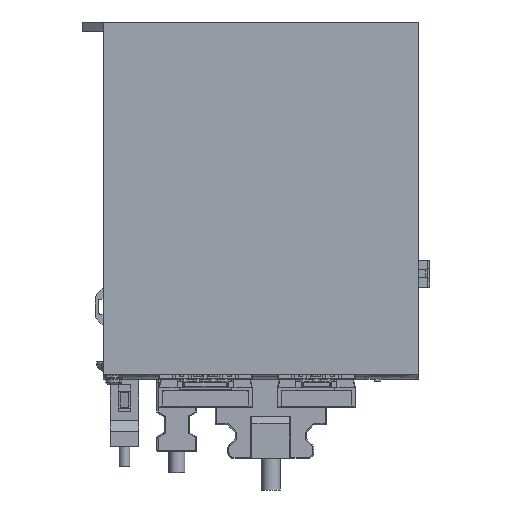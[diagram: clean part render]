
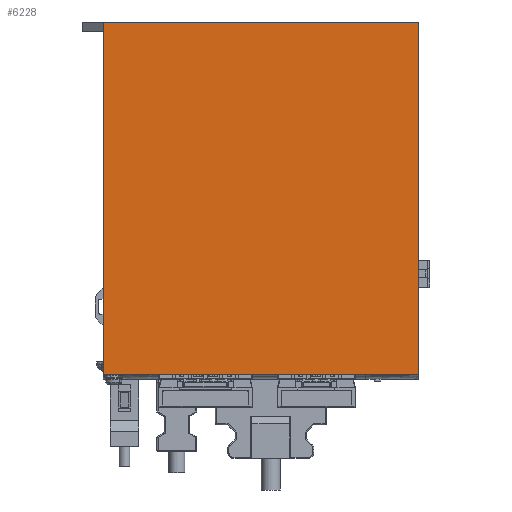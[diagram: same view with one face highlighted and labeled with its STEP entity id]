
A CAD part, front view. The second image highlights one B-rep face of the part: STEP entity #6228.
In plain terms, the highlighted planar face has unit normal (0, -1, 0).
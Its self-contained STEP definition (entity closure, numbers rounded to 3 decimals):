
#1209 = LINE ( 'NONE', #113590, #103268 ) ;
#1686 = VERTEX_POINT ( 'NONE', #150469 ) ;
#1817 = CARTESIAN_POINT ( 'NONE',  ( -150., 0., -79.7 ) ) ;
#2488 = EDGE_CURVE ( 'NONE', #64777, #132599, #124465, .T. ) ;
#3372 = VECTOR ( 'NONE', #80155, 1000. ) ;
#6213 = CARTESIAN_POINT ( 'NONE',  ( -150., 0., 88. ) ) ;
#6228 = ADVANCED_FACE ( 'NONE', ( #94925 ), #118364, .T. ) ;
#6781 = LINE ( 'NONE', #129754, #3372 ) ;
#15095 = VERTEX_POINT ( 'NONE', #65149 ) ;
#17262 = ORIENTED_EDGE ( 'NONE', *, *, #44241, .T. ) ;
#20338 = ORIENTED_EDGE ( 'NONE', *, *, #2488, .F. ) ;
#22660 = ORIENTED_EDGE ( 'NONE', *, *, #28420, .F. ) ;
#22758 = EDGE_CURVE ( 'NONE', #1686, #15095, #97366, .T. ) ;
#23967 = DIRECTION ( 'NONE',  ( 0., 0., -1. ) ) ;
#28420 = EDGE_CURVE ( 'NONE', #132599, #59366, #40136, .T. ) ;
#37687 = CARTESIAN_POINT ( 'NONE',  ( -140., 0., -79.5 ) ) ;
#40136 = LINE ( 'NONE', #109082, #100682 ) ;
#42230 = EDGE_CURVE ( 'NONE', #56891, #59366, #1209, .T. ) ;
#44241 = EDGE_CURVE ( 'NONE', #64777, #15095, #6781, .T. ) ;
#48077 = VECTOR ( 'NONE', #125938, 1000. ) ;
#52225 = DIRECTION ( 'NONE',  ( 1., 0., 0. ) ) ;
#56891 = VERTEX_POINT ( 'NONE', #37687 ) ;
#59366 = VERTEX_POINT ( 'NONE', #94349 ) ;
#64433 = CARTESIAN_POINT ( 'NONE',  ( 0., 0., 88. ) ) ;
#64777 = VERTEX_POINT ( 'NONE', #147577 ) ;
#65149 = CARTESIAN_POINT ( 'NONE',  ( -150., 0., -79.7 ) ) ;
#68128 = CARTESIAN_POINT ( 'NONE',  ( -150., 0., -79.5 ) ) ;
#70840 = ORIENTED_EDGE ( 'NONE', *, *, #42230, .T. ) ;
#74818 = ORIENTED_EDGE ( 'NONE', *, *, #22758, .F. ) ;
#79458 = CARTESIAN_POINT ( 'NONE',  ( -140., 0., -79.3 ) ) ;
#80155 = DIRECTION ( 'NONE',  ( 0., 0., -1. ) ) ;
#84243 = VECTOR ( 'NONE', #109131, 1000. ) ;
#84812 = VECTOR ( 'NONE', #150434, 1000. ) ;
#94349 = CARTESIAN_POINT ( 'NONE',  ( 0., 0., -79.5 ) ) ;
#94925 = FACE_OUTER_BOUND ( 'NONE', #119766, .T. ) ;
#97366 = LINE ( 'NONE', #1817, #84243 ) ;
#100682 = VECTOR ( 'NONE', #23967, 1000. ) ;
#103268 = VECTOR ( 'NONE', #52225, 1000. ) ;
#104599 = DIRECTION ( 'NONE',  ( 0., -1., 0. ) ) ;
#109082 = CARTESIAN_POINT ( 'NONE',  ( 0., 0., -79.5 ) ) ;
#109131 = DIRECTION ( 'NONE',  ( -1., 0., 0. ) ) ;
#110160 = AXIS2_PLACEMENT_3D ( 'NONE', #68128, #104599, #116803 ) ;
#111437 = ORIENTED_EDGE ( 'NONE', *, *, #146581, .T. ) ;
#113590 = CARTESIAN_POINT ( 'NONE',  ( -150., 0., -79.5 ) ) ;
#116803 = DIRECTION ( 'NONE',  ( 0., 0., -1. ) ) ;
#118364 = PLANE ( 'NONE',  #110160 ) ;
#119766 = EDGE_LOOP ( 'NONE', ( #111437, #70840, #22660, #20338, #17262, #74818 ) ) ;
#124465 = LINE ( 'NONE', #6213, #84812 ) ;
#125938 = DIRECTION ( 'NONE',  ( 0., 0., 1. ) ) ;
#129754 = CARTESIAN_POINT ( 'NONE',  ( -150., 0., -79.5 ) ) ;
#132599 = VERTEX_POINT ( 'NONE', #64433 ) ;
#146446 = LINE ( 'NONE', #79458, #48077 ) ;
#146581 = EDGE_CURVE ( 'NONE', #1686, #56891, #146446, .T. ) ;
#147577 = CARTESIAN_POINT ( 'NONE',  ( -150., 0., 88. ) ) ;
#150434 = DIRECTION ( 'NONE',  ( 1., 0., 0. ) ) ;
#150469 = CARTESIAN_POINT ( 'NONE',  ( -140., 0., -79.7 ) ) ;
